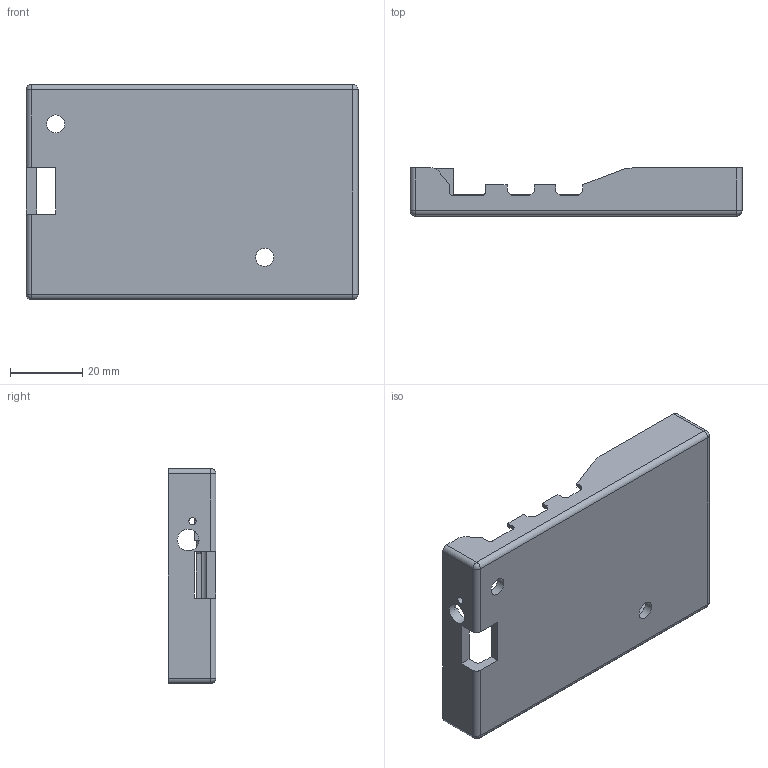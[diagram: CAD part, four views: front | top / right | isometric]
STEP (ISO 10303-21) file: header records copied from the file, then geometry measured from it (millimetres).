
FILE_DESCRIPTION(/* description */ (''),/* implementation_level */ '2;1');
FILE_NAME(/* name */ 'Bottom-Pins.step',/* time_stamp */ '2023-10-05T12:51:07-04:00',/* author */ (''),/* organization */ (''),/* preprocessor_version */ 'ST-DEVELOPER v20',/* originating_system */ 'Autodesk Translation Framework v12.14.0.127',/* authorisation */ '');
FILE_SCHEMA (('AUTOMOTIVE_DESIGN { 1 0 10303 214 3 1 1 }'));
Length unit declared in the file: millimetre
Products named in the file (2): PiWu; V2
Assembly tree (1 placements, depth 2):
  PiWu
    V2
Bounding box: 92.1 x 13.28 x 59.65 mm (x, y, z)
Volume: 17648.8 mm3; surface area: 15818.1 mm2
Topology: 1 solids, 1 shells, 133 faces, 345 edges, 221 vertices
Faces by surface type: plane 91, cylinder 34, sphere 8
Full cylindrical faces by diameter (mm): 2 x1, 2.3 x4, 4 x4, 5 x2, 6 x1
Entity records: 4077 total; most frequent: CARTESIAN_POINT 702, ORIENTED_EDGE 690, DIRECTION 689, EDGE_CURVE 345, LINE 273, VECTOR 273, VERTEX_POINT 221, AXIS2_PLACEMENT_3D 208
